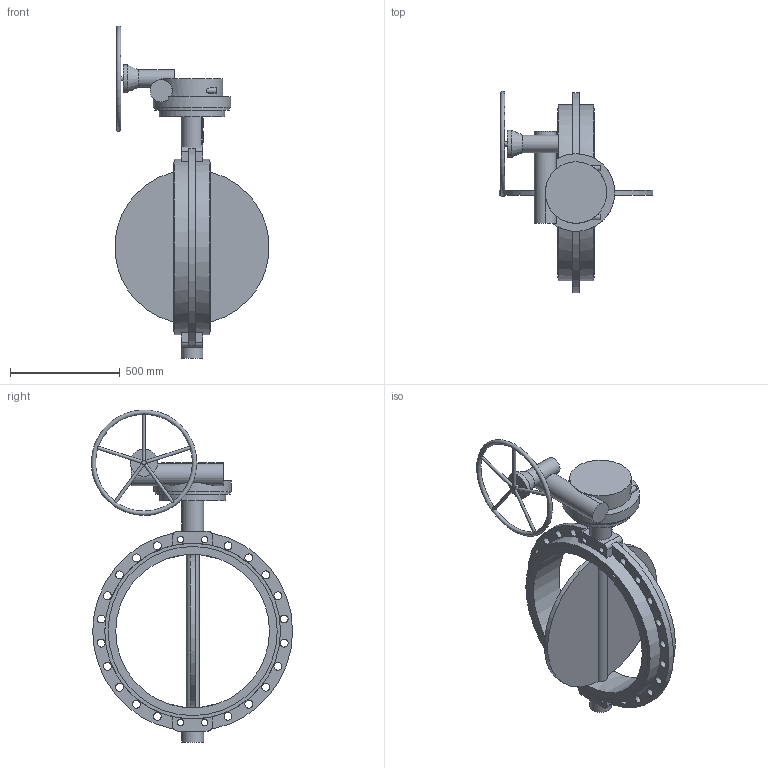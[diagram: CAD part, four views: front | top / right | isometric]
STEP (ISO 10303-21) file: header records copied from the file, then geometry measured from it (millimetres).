
FILE_DESCRIPTION(('STEP AP203'), '1');
FILE_NAME('青蜮铕 017WDN700 疱潴牝铕', '', ('UNSPECIFIED'), ('UNSPECIFIED'), 'ASCON STEP Converter 1.6', 'ASCON Math Kernel', '');
FILE_SCHEMA(('CONFIG_CONTROL_DESIGN'));
Length unit declared in the file: millimetre
Bounding box: 700.36 x 916.01 x 1511.49 mm (x, y, z)
Volume: 52951751.4 mm3; surface area: 2948314.3 mm2
Topology: 1 solids, 1 shells, 701 faces, 1970 edges, 1310 vertices
Faces by surface type: cylinder 506, plane 193, cone 1, torus 1
Full cylindrical faces by diameter (mm): 14 x13, 18 x8, 20 x2, 25 x2, 29.211 x4, 36 x20, 80 x1, 100 x3, 125 x1, 280 x1, 300 x1, 340 x1, 353 x1, 700 x1, 770 x2, 800 x2
Entity records: 31499 total; most frequent: CARTESIAN_POINT 6990, DIRECTION 4279, ORIENTED_EDGE 3802, EDGE_CURVE 1901, AXIS2_PLACEMENT_3D 1719, VERTEX_POINT 1308, CIRCLE 1018, EDGE_LOOP 865
